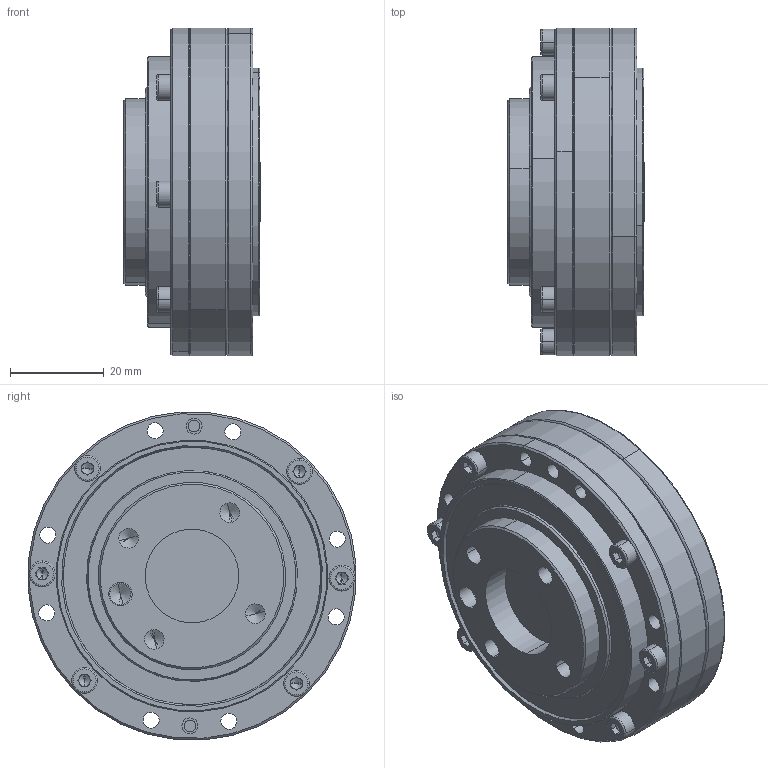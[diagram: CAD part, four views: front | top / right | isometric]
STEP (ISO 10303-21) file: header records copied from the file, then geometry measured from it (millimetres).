
FILE_DESCRIPTION (( 'STEP AP203' ), '1' );
FILE_NAME ('LCD-14-XXX-C-I.STEP', '2016-07-14T05:37:46', ( 'lenovo' ), ( 'Microsoft' ), 'SwSTEP 2.0', 'SolidWorks 2013', '' );
FILE_SCHEMA (( 'CONFIG_CONTROL_DESIGN' ));
Length unit declared in the file: millimetre
Products named in the file (16): LCD-14-XXX-P04; RZC-14内外圈+钢球; DIN 912 M3 x 16 --- 16C_DIN 912 M3 x 16 --- 16C; 柔性轴承RZC-14; DIN 912 M3 x 10 --- 10C_DIN 912 M3 x 10 --- 10C; LCD-14-XXX-P01; DB-14-I; LCD-14-XXX-P02; ISO 7046-1 - M2 x 3 - Z --- 3C_ISO 7046-1 - M2 x 3 - Z --- 3C; LCD-14-XXX-P04-1; LCD-14-XXX-C-I; LCD-14-XXX-P04-2; LCD-14-XXX-P04-3; LCD-14-XXX-P03; MFQ-LCD-14-I; RZC-14悵厥殤
Assembly tree (22 placements, depth 3):
  LCD-14-XXX-C-I
    LCD-14-XXX-P03
    柔性轴承RZC-14
      RZC-14悵厥殤
      RZC-14内外圈+钢球
    LCD-14-XXX-P01
    LCD-14-XXX-P02
    LCD-14-XXX-P04
      LCD-14-XXX-P04-1
      LCD-14-XXX-P04-2
      LCD-14-XXX-P04-3
      MFQ-LCD-14-I
    DIN 912 M3 x 16 --- 16C_DIN 912 M3 x 16 --- 16C  x4
    DIN 912 M3 x 10 --- 10C_DIN 912 M3 x 10 --- 10C  x2
    DB-14-I
    ISO 7046-1 - M2 x 3 - Z --- 3C_ISO 7046-1 - M2 x 3 - Z --- 3C  x4
Bounding box: 29.04 x 70.01 x 70.01 mm (x, y, z)
Volume: 72386 mm3; surface area: 48787.9 mm2
Topology: 44 solids, 44 shells, 925 faces, 2265 edges, 1384 vertices
Faces by surface type: cylinder 349, plane 276, cone 174, torus 80, sphere 46
Entity records: 22398 total; most frequent: DIRECTION 4013, CARTESIAN_POINT 3581, ORIENTED_EDGE 3200, AXIS2_PLACEMENT_3D 1721, EDGE_CURVE 1600, VERTEX_POINT 1021, CIRCLE 1000, EDGE_LOOP 879
